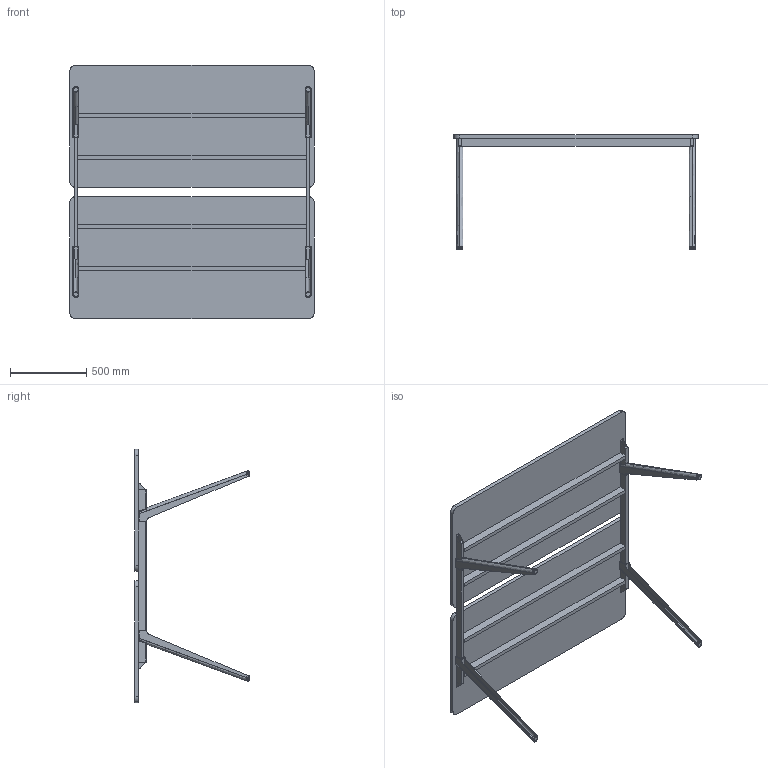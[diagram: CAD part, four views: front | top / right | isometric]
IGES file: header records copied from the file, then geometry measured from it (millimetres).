
Start section: SolidWorks IGES file using analytic representation for surfaces
Global section: file name: C:\Users\simone.cerana\OneDrive - Gruppo Tecno\Desktop\CHINA\DISEGNI DI SERIE\ASSIEMI LISTINO\HORIZON LISTINO\HO1616ST.IGS; native system: SolidWorks 2024; preprocessor: SolidWorks 2024; author: simone.cerana; date: 260508.123924; units: millimetre
Bounding box: 1600 x 749.83 x 1660 mm (x, y, z)
Surface area: 6981746.4 mm2 (no closed solid volume)
Topology: 0 solids, 0 shells, 284 faces, 3792 edges, 3792 vertices
Faces by surface type: bspline 192, revolution 92
